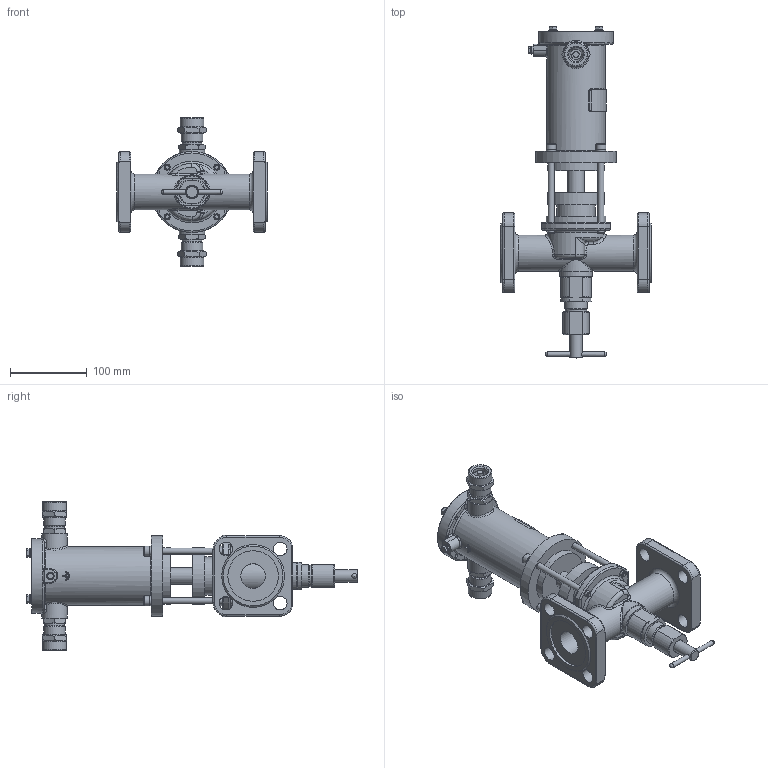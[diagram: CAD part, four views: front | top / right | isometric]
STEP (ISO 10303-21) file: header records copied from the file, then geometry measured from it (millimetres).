
FILE_DESCRIPTION(('STEP AP203'), '1');
FILE_NAME('ÑÅÍÑ DN32PN25-Â-200Ñ.stp', '2018-09-19T08:48:10', ('Îðëîâ Å.Â.'), ('ÎÎÎ ÍÏÏ Ñåíñîð'), 'ASCON STEP Converter 1.3', 'Kompas 3D', '');
FILE_SCHEMA(('CONFIG_CONTROL_DESIGN','SUPPORT_RESOURCE_SCHEMA'));
Length unit declared in the file: millimetre
Products named in the file (1): 59
Bounding box: 196 x 433.7 x 194 mm (x, y, z)
Volume: 1239346.2 mm3; surface area: 364132.2 mm2
Topology: 3 solids, 20 shells, 2002 faces, 5270 edges, 3415 vertices
Faces by surface type: cylinder 1021, plane 732, cone 129, torus 52, bspline 50, extrusion 16, sphere 2
Full cylindrical faces by diameter (mm): 3.5 x2, 4.134 x1, 4.917 x4, 5 x1, 6 x13, 6.2 x1, 6.5 x4, 8 x12, 8.2 x1, 9 x5, 10 x1, 11 x1, 12 x4, 13 x6, 16 x3, 17 x2, 18 x9, 18.632 x2, 19.9 x1, 20 x2, 21 x1, 22 x3, 22.376 x2, 23 x1, 23.5 x2, 24 x2, 24.5 x2, 26 x4, 26.376 x2, 27.8 x1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
Entity records: 76566 total; most frequent: CARTESIAN_POINT 26078, DIRECTION 10934, ORIENTED_EDGE 10466, EDGE_CURVE 5233, AXIS2_PLACEMENT_3D 4209, VERTEX_POINT 3407, VECTOR 2516, LINE 2500
